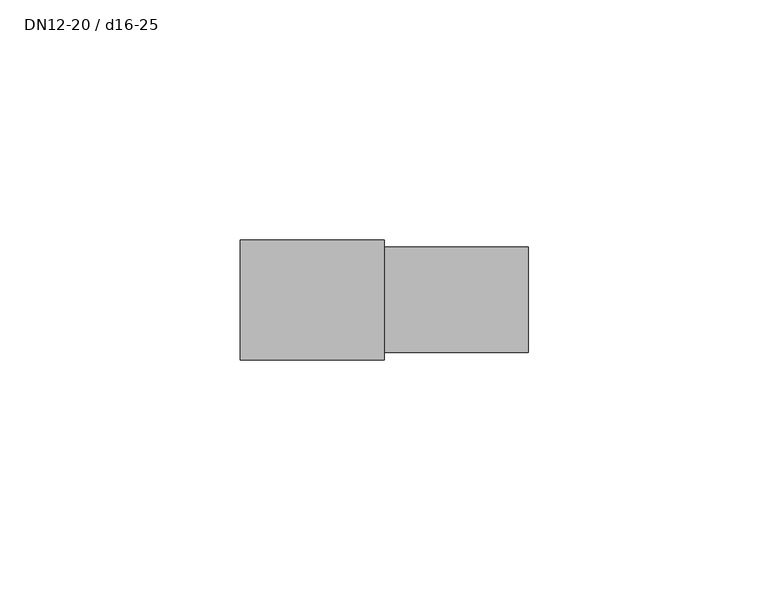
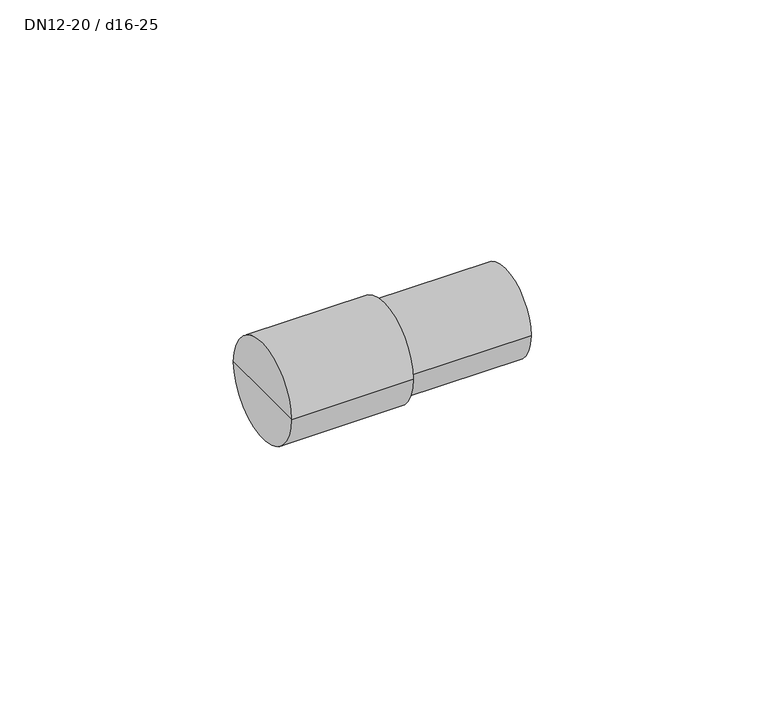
"""IFC4 building model written with IfcOpenShell, lengths in millimetres: pipe fitting geometry, NLRS_50_PIF_UN_PushFit overgang naar Geberit Mapress, met insteekeinden_geb : DN12-20 / d16-25."""

import ifcopenshell
import ifcopenshell.guid

model = None  # the IFC model being written
_history = None  # IfcOwnerHistory: only IFC2X3 demands one
_inside = {}  # id of a spatial element -> (the spatial element, [elements in it])
_under = {}  # id of a project, library or spatial element -> (it, [spatial elements below it])
_declared = {}  # id of a project -> (the project, [libraries it declares])
_typed = {}  # id of a type object -> (the type object, [elements of that type])
_made_of = {}  # id of a material, layer set ... -> (it, [elements and type objects made of it])


def new_model(schema):
    """Start an empty IFC model of exactly this schema.

    Asked for "IFC4X3", IfcOpenShell would pick the latest addendum, in which some entities
    have other attributes; the version numbers below select the first issue.
    IFC2X3 requires an IfcOwnerHistory on every rooted entity: one is made here for all.
    """
    global model, _history
    if schema == "IFC4X3":
        model = ifcopenshell.file(schema_version=(4, 3, 0, 0))
    else:
        model = ifcopenshell.file(schema=schema)
    _inside.clear()
    _under.clear()
    _declared.clear()
    _typed.clear()
    _made_of.clear()
    _history = None
    if model.schema == "IFC2X3":
        org = make("IfcOrganization", Name="unknown")
        user = make(
            "IfcPersonAndOrganization",
            ThePerson=make("IfcPerson", FamilyName="unknown"),
            TheOrganization=org,
        )
        app = make(
            "IfcApplication",
            ApplicationDeveloper=org,
            Version="unknown",
            ApplicationFullName="unknown",
            ApplicationIdentifier="unknown",
        )
        _history = make(
            "IfcOwnerHistory",
            OwningUser=user,
            OwningApplication=app,
            ChangeAction="ADDED",
            CreationDate=0,
        )
    return model


def make(cls, **values):
    """One entity of the class cls with the attributes given. An attribute that is None is left unset."""
    return model.create_entity(
        cls, **{name: value for name, value in values.items() if value is not None}
    )


def rooted(cls, **values):
    """An entity with a GlobalId (a new one), such as an element, a storey or a relation."""
    return make(cls, GlobalId=ifcopenshell.guid.new(), OwnerHistory=_history, **values)


def si_unit(unit_type, name, prefix=None):
    """IfcSIUnit, for example si_unit("LENGTHUNIT", "METRE", prefix="MILLI")."""
    return make("IfcSIUnit", UnitType=unit_type, Prefix=prefix, Name=name)


def assignment(units):
    """IfcUnitAssignment: the units of a project."""
    return None if units is None else make("IfcUnitAssignment", Units=units)


def point(xyz):
    """IfcCartesianPoint."""
    return None if xyz is None else make("IfcCartesianPoint", Coordinates=xyz)


def direction(xyz):
    """IfcDirection."""
    return None if xyz is None else make("IfcDirection", DirectionRatios=xyz)


def frame(location, z_axis=None, x_axis=None):
    """IfcAxis2Placement3D, a coordinate frame: its origin and axes. An axis left out is left unset."""
    return make(
        "IfcAxis2Placement3D",
        Location=point(location),
        Axis=direction(z_axis),
        RefDirection=direction(x_axis),
    )


def origin():
    """The frame at (0, 0, 0) with its axes left unset."""
    return frame((0.0, 0.0, 0.0))


def place(relative_to, where):
    """IfcLocalPlacement: puts the frame where relative to a parent placement (None: the world)."""
    return make(
        "IfcLocalPlacement", PlacementRelTo=relative_to, RelativePlacement=where
    )


def context(
    kind, dimensions, precision=None, world=None, true_north=None, identifier=None
):
    """IfcGeometricRepresentationContext, for example the 3D "Model" context."""
    return make(
        "IfcGeometricRepresentationContext",
        ContextIdentifier=identifier,
        ContextType=kind,
        CoordinateSpaceDimension=dimensions,
        Precision=precision,
        WorldCoordinateSystem=world,
        TrueNorth=true_north,
    )


def project(units=None, contexts=None):
    """IfcProject with its units and contexts."""
    return rooted(
        "IfcProject",
        Name="project",
        RepresentationContexts=contexts,
        UnitsInContext=assignment(units),
    )


def spatial(cls, under=None, at=None, **own):
    """A site, building, storey or space (cls), placed at a placement, below another one or the project."""
    s = rooted(cls, ObjectPlacement=at, **own)
    if under is not None:
        _under.setdefault(under.id(), (under, []))[1].append(s)
    return s


def circle_curve(where, radius):
    """IfcCircle in the frame where."""
    return make("IfcCircle", Position=where, Radius=radius)


def shape(context_of_items, identifier, shape_type, items):
    """IfcShapeRepresentation: the items that make up one representation, for example the "Body"."""
    return make(
        "IfcShapeRepresentation",
        ContextOfItems=context_of_items,
        RepresentationIdentifier=identifier,
        RepresentationType=shape_type,
        Items=items,
    )


def source(mapping_origin, context_of_items, identifier, shape_type, items):
    """IfcRepresentationMap: a shape defined once, which mapped items show again and again."""
    return make(
        "IfcRepresentationMap",
        MappingOrigin=mapping_origin,
        MappedRepresentation=shape(context_of_items, identifier, shape_type, items),
    )


def transform(
    local_origin,
    x_axis=None,
    y_axis=None,
    z_axis=None,
    scale=None,
    scale2=None,
    scale3=None,
    uniform=True,
):
    """IfcCartesianTransformationOperator3D, or its non-uniform kind. x_axis, y_axis, z_axis: its Axis1, 2, 3."""
    if uniform:
        return make(
            "IfcCartesianTransformationOperator3D",
            Axis1=direction(x_axis),
            Axis2=direction(y_axis),
            LocalOrigin=point(local_origin),
            Scale=scale,
            Axis3=direction(z_axis),
        )
    return make(
        "IfcCartesianTransformationOperator3DnonUniform",
        Axis1=direction(x_axis),
        Axis2=direction(y_axis),
        LocalOrigin=point(local_origin),
        Scale=scale,
        Axis3=direction(z_axis),
        Scale2=scale2,
        Scale3=scale3,
    )


def mapped(mapping_source, mapping_target):
    """IfcMappedItem: shows the shape of a source again, moved by a transform."""
    return make(
        "IfcMappedItem", MappingSource=mapping_source, MappingTarget=mapping_target
    )


def made_of(thing, what):
    """Note that an element or type object is made of a material, layer set ...; save() writes the relation."""
    if what is not None:
        _made_of.setdefault(what.id(), (what, []))[1].append(thing)
    return thing


def element(
    cls,
    number,
    at=None,
    inside=None,
    cuts=None,
    type_object=None,
    material=None,
    context=None,
    identifier="Body",
    shape_type=None,
    held_by="IfcProductDefinitionShape",
    body=None,
    shapes=None,
    **own,
):
    """One element of the class cls, such as IfcWall. Its Tag is "e" and its number.

    at: its placement. inside: the storey or other place that contains it. cuts: it is an
    opening in that element (IfcRelVoidsElement). A single representation is given by context,
    identifier, shape_type and body (its items); several are given by shapes. held_by: the class
    of the entity that holds the representations. save() writes the other relations.
    """
    e = rooted(cls, Tag="e%d" % number, ObjectPlacement=at, **own)
    if body is not None:
        shapes = [shape(context, identifier, shape_type, body)]
    if shapes is not None:
        e.Representation = make(held_by, Representations=shapes)
    if inside is not None:
        _inside.setdefault(inside.id(), (inside, []))[1].append(e)
    if cuts is not None:
        rooted(
            "IfcRelVoidsElement", RelatingBuildingElement=cuts, RelatedOpeningElement=e
        )
    if type_object is not None:
        _typed.setdefault(type_object.id(), (type_object, []))[1].append(e)
    return made_of(e, material)


def aggregate(whole, parts):
    """IfcRelAggregates: a whole, such as a stair, and the parts it consists of."""
    return rooted("IfcRelAggregates", RelatingObject=whole, RelatedObjects=parts)


def save(model, path):
    """Write the relations noted so far, then the file.

    IfcRelAggregates (storeys below a building ...), IfcRelContainedInSpatialStructure (elements
    in a storey), IfcRelDefinesByType, IfcRelAssociatesMaterial and IfcRelDeclares: one each for
    every whole, place, type object, material and project.
    """
    for whole, parts in _under.values():
        aggregate(whole, parts)
    for where, things in _inside.values():
        rooted(
            "IfcRelContainedInSpatialStructure",
            RelatedElements=things,
            RelatingStructure=where,
        )
    for kind, things in _typed.values():
        rooted("IfcRelDefinesByType", RelatedObjects=things, RelatingType=kind)
    for what, things in _made_of.values():
        rooted("IfcRelAssociatesMaterial", RelatedObjects=things, RelatingMaterial=what)
    for by, libraries in _declared.values():
        rooted("IfcRelDeclares", RelatingContext=by, RelatedDefinitions=libraries)
    model.write(path)


def plane_surface(at):
    """IfcPlane: the flat surface through the origin of the frame at, square to its z axis."""
    return make("IfcPlane", Position=at)


def cylinder_surface(at, radius):
    """IfcCylindricalSurface: all points at the distance radius from the z axis of the frame at."""
    return make("IfcCylindricalSurface", Position=at, Radius=radius)


def advanced_brep(points, edges, surfaces, faces):
    """IfcAdvancedBrep: a solid bounded by faces that lie on surfaces and meet in shared edges.

    An edge is (start, end): straight between two places in points (the first is 0);
    or (start, end, curve); or (start, end, curve, False) where it runs against its curve.
    A face is (place in surfaces, loops), or (place, loops, False) where it looks against
    its surface's normal. A loop lists edges by number (the first is 1), with a minus sign
    where the edge is run from its end to its start. The first loop is the outer one.
    """
    corners = [point(p) for p in points]
    vertices = [make("IfcVertexPoint", VertexGeometry=c) for c in corners]
    made = []
    for start, end, *more in edges:
        made.append(
            make(
                "IfcEdgeCurve",
                EdgeStart=vertices[start],
                EdgeEnd=vertices[end],
                EdgeGeometry=more[0] if more else make("IfcPolyline", Points=[corners[start], corners[end]]),
                SameSense=more[1] if len(more) > 1 else True,
            )
        )
    hull = []
    for where, loops, *sense in faces:
        bounds = []
        for j, loop in enumerate(loops):
            ring = [make("IfcOrientedEdge", EdgeElement=made[abs(k) - 1], Orientation=k > 0) for k in loop]
            bounds.append(
                make(
                    "IfcFaceOuterBound" if j == 0 else "IfcFaceBound",
                    Bound=make("IfcEdgeLoop", EdgeList=ring),
                    Orientation=True,
                )
            )
        hull.append(make("IfcAdvancedFace", Bounds=bounds, FaceSurface=surfaces[where], SameSense=sense[0] if sense else True))
    return make("IfcAdvancedBrep", Outer=make("IfcClosedShell", CfsFaces=hull))


def dn12_20_d16_25_9b3fed16(model_context):
    return source(origin(), model_context, "Body", "AdvancedBrep", [
        advanced_brep(
        [(0.0, 11.0, 0.0), (30.0, 11.0, 0.0), (30.0, -11.0, 0.0), (0.0, -11.0, 0.0), (30.0, 0.0, 0.0), (-30.0, -12.5, 0.0), (-30.0, 12.5, 0.0), (0.0, 12.5, 0.0), (0.0, -12.5, 0.0), (-30.0, 0.0, 0.0)],
        [
            (0, 1),
            (1, 2, circle_curve(frame((30.0, 0.0, 0.0), z_axis=(-1.0, 0.0, 0.0), x_axis=(0.0, 1.0, 0.0)), 11.0)),
            (2, 3),
            (3, 0, circle_curve(frame((0.0, 0.0, 0.0), z_axis=(1.0, 0.0, 0.0), x_axis=(0.0, 1.0, 0.0)), 11.0)),
            (0, 3, circle_curve(frame((0.0, 0.0, 0.0), z_axis=(1.0, 0.0, 0.0), x_axis=(0.0, 1.0, 0.0)), 11.0)),
            (2, 1, circle_curve(frame((30.0, 0.0, 0.0), z_axis=(-1.0, 0.0, 0.0), x_axis=(0.0, 1.0, 0.0)), 11.0)),
            (1, 4),
            (4, 2),
            (5, 6, circle_curve(frame((-30.0, 0.0, 0.0), z_axis=(1.0, 0.0, 0.0), x_axis=(0.0, 1.0, 0.0)), 12.5)),
            (6, 7),
            (7, 8, circle_curve(frame((0.0, 0.0, 0.0), z_axis=(-1.0, 0.0, 0.0), x_axis=(0.0, 1.0, 0.0)), 12.5)),
            (8, 5),
            (6, 5, circle_curve(frame((-30.0, 0.0, 0.0), z_axis=(1.0, 0.0, 0.0), x_axis=(0.0, 1.0, 0.0)), 12.5)),
            (8, 7, circle_curve(frame((0.0, 0.0, 0.0), z_axis=(-1.0, 0.0, 0.0), x_axis=(0.0, 1.0, 0.0)), 12.5)),
            (5, 9),
            (9, 6),
            (7, 0),
            (3, 8),
        ],
        [
            cylinder_surface(frame((46.086804, 0.0, 0.0), z_axis=(-1.0, 0.0, 0.0), x_axis=(0.0, 1.0, 0.0)), 11.0),
            plane_surface(frame((30.0, 0.0, 0.0), z_axis=(1.0, 0.0, 0.0), x_axis=(0.0, 1.0, 0.0))),
            cylinder_surface(frame((-44.1665386, 0.0, 0.0), z_axis=(-1.0, 0.0, 0.0), x_axis=(0.0, 1.0, 0.0)), 12.5),
            plane_surface(frame((-30.0, 0.0, 0.0), z_axis=(-1.0, 0.0, 0.0), x_axis=(0.0, 1.0, 0.0))),
            plane_surface(frame((0.0, 0.0, 0.0), z_axis=(1.0, 0.0, 0.0), x_axis=(0.0, 1.0, 0.0))),
        ],
        [
            (0, [[1, 2, 3, 4]]),
            (0, [[-1, 5, -3, 6]]),
            (1, [[-2, 7, 8]]),
            (1, [[-6, -8, -7]]),
            (2, [[9, 10, 11, 12]]),
            (2, [[-10, 13, -12, 14]]),
            (3, [[-9, 15, 16]]),
            (3, [[-13, -16, -15]]),
            (4, [[-11, 17, -4, 18]]),
            (4, [[-14, -18, -5, -17]]),
        ],
    ),
    ])


if __name__ == "__main__":
    model = new_model("IFC4")
    model_context = context("Model", 3, world=origin())
    ifc_project = project(units=[si_unit("LENGTHUNIT", "METRE", prefix="MILLI")], contexts=[model_context])
    site = spatial("IfcSite", under=ifc_project)
    building = spatial("IfcBuilding", under=site)
    placement = place(None, origin())
    dn12_20_d16_25_shape = dn12_20_d16_25_9b3fed16(model_context)
    element("IfcPipeFitting", 1, ObjectType="NLRS_50_PIF_UN_PushFit overgang naar Geberit Mapress, met insteekeinden_geb : DN12-20 / d16-25", at=placement, inside=building, context=model_context, shape_type="MappedRepresentation", body=[
        mapped(dn12_20_d16_25_shape, transform((0.0, 0.0, 0.0), x_axis=(1.0, 0.0, 0.0), y_axis=(0.0, 1.0, 0.0), z_axis=(0.0, 0.0, 1.0))),
    ])
    save(model, "model.ifc")
